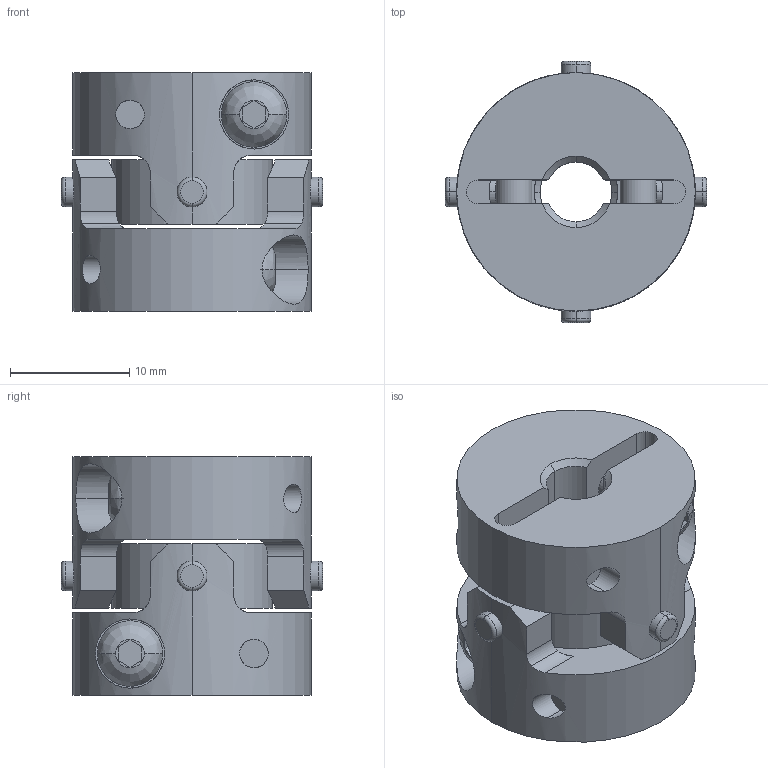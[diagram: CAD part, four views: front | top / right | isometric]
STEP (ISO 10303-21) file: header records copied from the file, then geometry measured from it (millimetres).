
FILE_DESCRIPTION((''),'2;1');
FILE_NAME('UA-20C-5×6.stp','2013-05-16T09:03:31',(''),(''),'AutoCAD STEP 2000i','AutoCAD 2000i',', , ');
FILE_SCHEMA(('CONFIG_CONTROL_DESIGN'));
Length unit declared in the file: millimetre
Products named in the file (6): UA-20C-4×4; 忣兜1; UA-2002-D04-1; BTN-M3; UA-2002-D04; UA20-SEN
Assembly tree (6 placements, depth 3):
  UA-20C-4×4
    忣兜1
    UA-2002-D04-1
      BTN-M3
    UA-2002-D04
      BTN-M3
    UA20-SEN
Bounding box: 21.89 x 21.89 x 20 mm (x, y, z)
Volume: 4490.6 mm3; surface area: 3864.9 mm2
Topology: 1 solids, 1 shells, 206 faces, 554 edges, 364 vertices
Faces by surface type: cylinder 96, plane 78, cone 16, bspline 8, torus 8
Entity records: 8011 total; most frequent: CARTESIAN_POINT 2695, ORIENTED_EDGE 1108, DIRECTION 1064, EDGE_CURVE 554, AXIS2_PLACEMENT_3D 409, VERTEX_POINT 364, VECTOR 246, LINE 246
